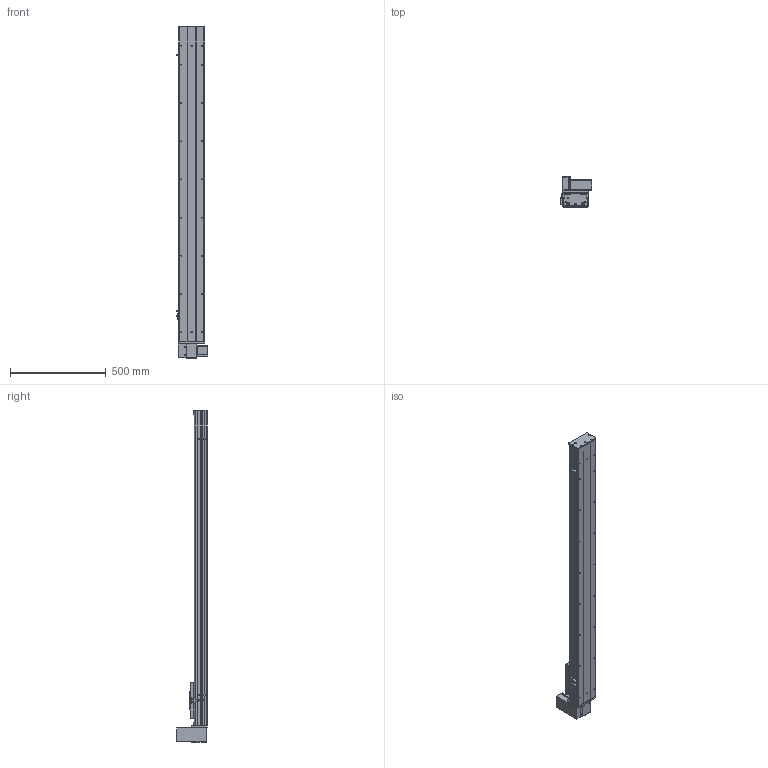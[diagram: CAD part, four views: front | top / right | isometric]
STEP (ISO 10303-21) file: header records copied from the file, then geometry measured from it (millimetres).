
FILE_DESCRIPTION (( 'STEP AP203' ), '1' );
FILE_NAME ('Y135CB-D90-S1350-UR-P400W.STEP', '2020-02-18T04:12:33', ( '微软用户' ), ( '微软中国' ), 'SwSTEP 2.0', 'SolidWorks 2017', '' );
FILE_SCHEMA (( 'CONFIG_CONTROL_DESIGN' ));
Length unit declared in the file: millimetre
Products named in the file (18): Y10B--々湍喘謫眊--666; san松下电机400不带刹车----; Y10B-耜蚾蟀諉啣----; 5CB --掛极耜裔啣-; 00B-俋欶BM--; C-詩湍揤踡え-陔; Y135CB-耜裔; Y135CB-D90-S1350-UR-P400W; 135CB--詩湍-CE; 135CB---遴掛极.-; Y100-135俋离換覜ん--; 35CB---喘謫眊楊擘啣; Y135C-陔俋离換覜結え-; 0B-埴倛裔啣; 5C--俋欶; 0B-源倛裔啣; C-雄赽釱--; 0B-萇儂楊擘啣
Assembly tree (21 placements, depth 2):
  Y135CB-D90-S1350-UR-P400W
    Y135CB-耜裔
    135CB---遴掛极.-
    35CB---喘謫眊楊擘啣
    0B-埴倛裔啣
    0B-源倛裔啣
    0B-萇儂楊擘啣
    san松下电机400不带刹车----
    5CB --掛极耜裔啣-  x2
    C-詩湍揤踡え-陔  x2
    135CB--詩湍-CE
    Y100-135俋离換覜ん--  x3
    Y135C-陔俋离換覜結え-
    5C--俋欶
    C-雄赽釱--
    Y10B--々湍喘謫眊--666
    Y10B-耜蚾蟀諉啣----
    00B-俋欶BM--
Bounding box: 167.5 x 158.7 x 1738 mm (x, y, z)
Volume: 5295314.7 mm3; surface area: 2081128.7 mm2
Topology: 21 solids, 21 shells, 953 faces, 2563 edges, 1698 vertices
Faces by surface type: cylinder 481, plane 456, cone 16
Entity records: 29753 total; most frequent: DIRECTION 4943, CARTESIAN_POINT 4900, ORIENTED_EDGE 4602, EDGE_CURVE 2301, AXIS2_PLACEMENT_3D 1805, VERTEX_POINT 1526, LINE 1333, VECTOR 1333
